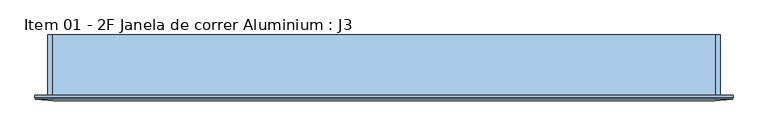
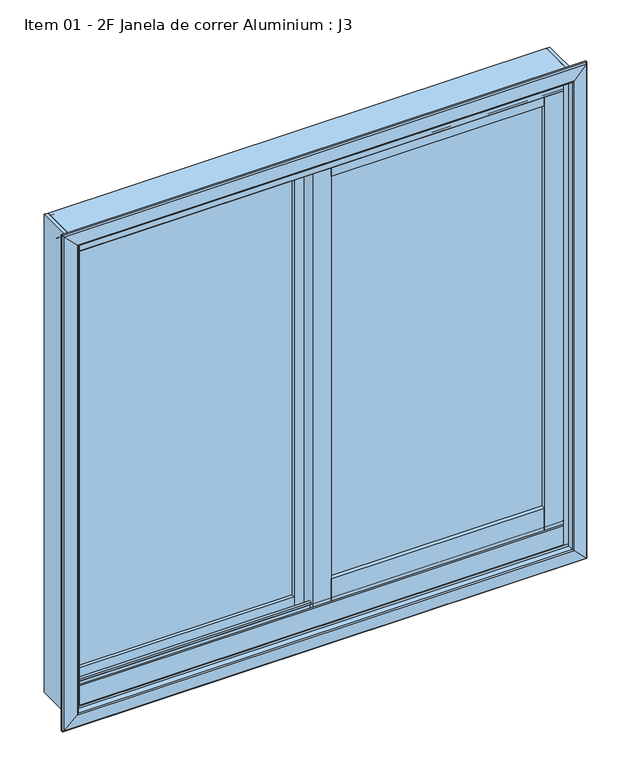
"""IFC4 building model written with IfcOpenShell, lengths in millimetres: window geometry, Item 01 - 2F Janela de correr Aluminium : J3."""

from ifc_helpers import new_model, si_unit, frame, origin, place, context, project, spatial, polyline, circle_curve, ellipse_curve, outline, extrude, source, transform, mapped, element, save
from ifc_brep_helpers import plane_surface, cylinder_surface, revolved_surface, advanced_brep


def item_01_2f_janela_de_correr_aluminium_j3_e0c3c169(model_context):
    return source(origin(), model_context, "Body", "SolidModel", [
        extrude(outline(polyline([(-27.3998339, -10.3), (-27.3998339, -14.3), (-454.750983, -14.3), (-454.750983, -10.3), (-27.3998339, -10.3)])), frame((0.0, 0.0, 857.0), z_axis=(0.0, 0.0, 1.0), x_axis=(1.0, 0.0, 0.0)), (0.0, 0.0, 1.0), 880.5),
        extrude(outline(polyline([(27.2998339, -45.9), (27.2998339, -41.9), (448.868646, -41.9), (448.868646, -45.9), (27.2998339, -45.9)])), frame((0.0, 0.0, 895.5), z_axis=(0.0, 0.0, 1.0), x_axis=(1.0, 0.0, 0.0)), (0.0, 0.0, 1.0), 842.0),
        extrude(outline(polyline([(448.868646, -33.9), (448.868646, -53.9), (27.2998339, -53.9), (27.2998339, -33.9), (448.868646, -33.9)])), frame((0.0, 0.0, 847.9996573), z_axis=(0.0, 0.0, 1.0), x_axis=(1.0, 0.0, 0.0)), (0.0, 0.0, 1.0), 47.5003427),
        extrude(outline(polyline([(448.868646, -33.9), (448.868646, -53.9), (27.2998339, -53.9), (27.2998339, -33.9), (448.868646, -33.9)])), frame((0.0, 0.0, 1737.4996573), z_axis=(0.0, 0.0, 1.0), x_axis=(1.0, 0.0, 0.0)), (0.0, 0.0, 1.0), 34.5),
        extrude(outline(polyline([(-27.3998339, -2.3), (-27.3998339, -22.3), (-454.750983, -22.3), (-454.750983, -2.3), (-27.3998339, -2.3)])), frame((0.0, 0.0, 821.0), z_axis=(0.0, 0.0, 1.0), x_axis=(1.0, 0.0, 0.0)), (0.0, 0.0, 1.0), 36.0),
        extrude(outline(polyline([(-27.3998339, -2.3), (-27.3998339, -22.3), (-454.750983, -22.3), (-454.750983, -2.3), (-27.3998339, -2.3)])), frame((0.0, 0.0, 1737.5), z_axis=(0.0, 0.0, 1.0), x_axis=(1.0, 0.0, 0.0)), (0.0, 0.0, 1.0), 34.5),
        extrude(outline(polyline([(-454.750983, -22.3), (-493.0, -22.3), (-493.0, -2.3), (-454.750983, -2.3), (-454.750983, -22.3)])), frame((0.0, 0.0, 821.0), z_axis=(0.0, 0.0, 1.0), x_axis=(1.0, 0.0, 0.0)), (0.0, 0.0, 1.0), 951.0),
        extrude(outline(polyline([(-27.3998339, -22.3), (-27.3998339, -2.3), (7.6001661, -2.3), (7.6001661, -33.9), (27.2998339, -33.9), (27.2998339, -53.9), (-7.6001661, -53.9), (-7.6001661, -22.3), (-27.3998339, -22.3)])), frame((0.0, 0.0, 821.0), z_axis=(0.0, 0.0, 1.0), x_axis=(1.0, 0.0, 0.0)), (0.0, 0.0, 1.0), 951.0),
        extrude(outline(polyline([(493.0, -53.9), (448.868646, -53.9), (448.868646, -33.9), (493.0, -33.9), (493.0, -53.9)])), frame((0.0, 0.0, 821.0), z_axis=(0.0, 0.0, 1.0), x_axis=(1.0, 0.0, 0.0)), (0.0, 0.0, 1.0), 951.0),
        advanced_brep(
        [(-492.5998339, 8.5620965, 810.2470077), (-492.5998339, 8.5620965, 801.4000436), (-492.5998339, 13.600001, 801.4000436), (-492.5998339, 13.600001, 807.4000364), (-492.5998339, 14.9999993, 807.4000364), (-492.5998339, 15.0, 800.0), (-492.5998339, -75.0, 800.0), (-492.5998339, -75.0, 807.4000364), (-492.5998339, -73.6000017, 807.4000364), (-492.5998339, -73.6000017, 801.3999983), (-492.5998339, -68.6000077, 801.3999983), (-492.5998339, -68.6000077, 815.5000406), (-492.5998339, -66.9001002, 815.5000406), (-492.5998339, -66.9002002, 855.4959852), (-492.5998339, -63.9002108, 855.4999745), (-492.5998339, -63.9002039, 852.9999952), (-492.5998339, -65.5001025, 852.0762974), (-492.5998339, -65.4999102, 840.5017467), (-492.5998339, -64.5522917, 839.4937615), (-492.5998339, -42.5000392, 838.337999), (-492.5998339, -42.5000392, 852.496362), (-492.5998339, -44.7000484, 852.496362), (-492.5998339, -44.7000484, 848.6999865), (-492.5998339, -46.1007067, 848.6999865), (-492.5998339, -46.1007067, 852.4947997), (-492.5998339, -41.099933, 852.4947997), (-492.5998339, -41.099933, 838.2646991), (-492.5998339, -39.464205, 838.1789418), (-492.5998339, -35.731283, 834.861102), (-492.5998339, -32.3590937, 815.7367048), (-492.5998339, -29.9346709, 813.5917613), (-492.5998339, -14.4999651, 812.7828298), (-492.5998339, -14.4999651, 825.4891381), (-492.5998339, -9.4999947, 825.4999956), (-492.5998339, -9.4999711, 821.7000191), (-492.5998339, -10.8999694, 821.7000191), (-492.5998339, -10.8999694, 825.4963945), (-492.5998339, -13.0999825, 825.4963945), (-492.5998339, -13.0999825, 812.7095299), (-492.5998339, 7.2297593, 811.6448774), (492.5998339, 8.5620965, 810.2470077), (492.5998339, 8.5620965, 801.4000436), (492.5998339, 13.600001, 801.4000436), (492.5998339, 13.600001, 807.4000364), (492.5998339, 14.9999993, 807.4000364), (492.5998339, 15.0, 800.0), (492.5998339, -75.0, 800.0), (492.5998339, -75.0, 807.4000364), (492.5998339, -73.6000017, 807.4000364), (492.5998339, -73.6000017, 801.3999983), (492.5998339, -68.6000077, 801.3999983), (492.5998339, -68.6000077, 815.5000406), (492.5998339, -66.9001002, 815.5000406), (492.5998339, -66.9002002, 855.4959852), (492.5998339, -63.9002108, 855.4999745), (492.5998339, -63.9002039, 852.9999952), (492.5998339, -65.5001025, 852.0762974), (492.5998339, -65.4999102, 840.5017467), (492.5998339, -64.5522917, 839.4937615), (492.5998339, -42.5000392, 838.337999), (492.5998339, -42.5000392, 852.496362), (492.5998339, -44.7000484, 852.496362), (492.5998339, -44.7000484, 848.6999865), (492.5998339, -46.1007067, 848.6999865), (492.5998339, -46.1007067, 852.4947997), (492.5998339, -41.099933, 852.4947997), (492.5998339, -41.099933, 838.2646991), (492.5998339, -39.464205, 838.1789418), (492.5998339, -35.731283, 834.861102), (492.5998339, -32.3590937, 815.7367048), (492.5998339, -29.9346709, 813.5917613), (492.5998339, -14.4999651, 812.7828298), (492.5998339, -14.4999651, 825.4891381), (492.5998339, -9.4999947, 825.4999956), (492.5998339, -9.4999711, 821.7000191), (492.5998339, -10.8999694, 821.7000191), (492.5998339, -10.8999694, 825.4963945), (492.5998339, -13.0999825, 825.4963945), (492.5998339, -13.0999825, 812.7095299), (492.5998339, 7.2297593, 811.6448774)],
        [
            (0, 1),
            (1, 2),
            (2, 3),
            (3, 4),
            (4, 5),
            (5, 6),
            (6, 7),
            (7, 8),
            (8, 9),
            (9, 10),
            (10, 11),
            (11, 12),
            (12, 13),
            (13, 14, circle_curve(frame((-492.5998339, -65.4002082, 855.4999743), z_axis=(-1.0, 0.0, 0.0), x_axis=(0.0, 0.0, 1.0)), 1.4999974)),
            (14, 15),
            (15, 16),
            (16, 17),
            (17, 18, circle_curve(frame((-492.5998339, -64.4999552, 840.4923898), z_axis=(1.0, 0.0, 0.0), x_axis=(0.0, 0.0, 1.0)), 0.9999988)),
            (18, 19),
            (19, 20),
            (20, 21, circle_curve(frame((-492.5998339, -43.6000438, 852.496362), z_axis=(1.0, 0.0, 0.0), x_axis=(0.0, 0.0, 1.0)), 1.1000046)),
            (21, 22),
            (22, 23, circle_curve(frame((-492.5998339, -45.4003775, 848.6999865), z_axis=(-1.0, 0.0, 0.0), x_axis=(0.0, 0.0, 1.0)), 0.7003292)),
            (23, 24),
            (24, 25, circle_curve(frame((-492.5998339, -43.6003199, 852.4947997), z_axis=(-1.0, 0.0, 0.0), x_axis=(0.0, 0.0, 1.0)), 2.5003869)),
            (25, 26),
            (26, 27),
            (27, 28, circle_curve(frame((-492.5998339, -39.6736275, 834.1844326), z_axis=(-1.0, 0.0, 0.0), x_axis=(0.0, 0.0, 1.0)), 3.9999952)),
            (28, 29),
            (29, 30, circle_curve(frame((-492.5998339, -29.7985976, 816.188195), z_axis=(1.0, 0.0, 0.0), x_axis=(0.0, 0.0, 1.0)), 2.5999969)),
            (30, 31),
            (31, 32),
            (32, 33, circle_curve(frame((-492.5998339, -11.9999917, 825.4999955), z_axis=(-1.0, 0.0, 0.0), x_axis=(0.0, 0.0, 1.0)), 2.499997)),
            (33, 34),
            (34, 35, circle_curve(frame((-492.5998339, -10.1999703, 821.7000191), z_axis=(-1.0, 0.0, 0.0), x_axis=(0.0, 0.0, 1.0)), 0.6999992)),
            (35, 36),
            (36, 37, circle_curve(frame((-492.5998339, -11.9999759, 825.4963945), z_axis=(1.0, 0.0, 0.0), x_axis=(0.0, 0.0, 1.0)), 1.1000065)),
            (37, 38),
            (38, 39),
            (39, 0, circle_curve(frame((-492.5998339, 7.1626152, 810.2470077), z_axis=(-1.0, 0.0, 0.0), x_axis=(0.0, 0.0, 1.0)), 1.3994814)),
            (0, 40),
            (40, 41),
            (41, 1),
            (41, 42),
            (42, 2),
            (42, 43),
            (43, 3),
            (43, 44),
            (44, 4),
            (44, 45),
            (45, 5),
            (45, 46),
            (46, 6),
            (46, 47),
            (47, 7),
            (47, 48),
            (48, 8),
            (48, 49),
            (49, 9),
            (49, 50),
            (50, 10),
            (50, 51),
            (51, 11),
            (51, 52),
            (52, 12),
            (52, 53),
            (53, 13),
            (53, 54, circle_curve(frame((492.5998339, -65.4002082, 855.4999743), z_axis=(-1.0, 0.0, 0.0), x_axis=(0.0, 0.0, 1.0)), 1.4999974)),
            (54, 14),
            (54, 55),
            (55, 15),
            (55, 56),
            (56, 16),
            (56, 57),
            (57, 17),
            (57, 58, circle_curve(frame((492.5998339, -64.4999552, 840.4923898), z_axis=(1.0, 0.0, 0.0), x_axis=(0.0, 0.0, 1.0)), 0.9999988)),
            (58, 18),
            (58, 59),
            (59, 19),
            (59, 60),
            (60, 20),
            (60, 61, circle_curve(frame((492.5998339, -43.6000438, 852.496362), z_axis=(1.0, 0.0, 0.0), x_axis=(0.0, 0.0, 1.0)), 1.1000046)),
            (61, 21),
            (61, 62),
            (62, 22),
            (62, 63, circle_curve(frame((492.5998339, -45.4003775, 848.6999865), z_axis=(-1.0, 0.0, 0.0), x_axis=(0.0, 0.0, 1.0)), 0.7003292)),
            (63, 23),
            (63, 64),
            (64, 24),
            (64, 65, circle_curve(frame((492.5998339, -43.6003199, 852.4947997), z_axis=(-1.0, 0.0, 0.0), x_axis=(0.0, 0.0, 1.0)), 2.5003869)),
            (65, 25),
            (65, 66),
            (66, 26),
            (66, 67),
            (67, 27),
            (67, 68, circle_curve(frame((492.5998339, -39.6736275, 834.1844326), z_axis=(-1.0, 0.0, 0.0), x_axis=(0.0, 0.0, 1.0)), 3.9999952)),
            (68, 28),
            (68, 69),
            (69, 29),
            (69, 70, circle_curve(frame((492.5998339, -29.7985976, 816.188195), z_axis=(1.0, 0.0, 0.0), x_axis=(0.0, 0.0, 1.0)), 2.5999969)),
            (70, 30),
            (70, 71),
            (71, 31),
            (71, 72),
            (72, 32),
            (72, 73, circle_curve(frame((492.5998339, -11.9999917, 825.4999955), z_axis=(-1.0, 0.0, 0.0), x_axis=(0.0, 0.0, 1.0)), 2.499997)),
            (73, 33),
            (73, 74),
            (74, 34),
            (74, 75, circle_curve(frame((492.5998339, -10.1999703, 821.7000191), z_axis=(-1.0, 0.0, 0.0), x_axis=(0.0, 0.0, 1.0)), 0.6999992)),
            (75, 35),
            (75, 76),
            (76, 36),
            (76, 77, circle_curve(frame((492.5998339, -11.9999759, 825.4963945), z_axis=(1.0, 0.0, 0.0), x_axis=(0.0, 0.0, 1.0)), 1.1000065)),
            (77, 37),
            (77, 78),
            (78, 38),
            (78, 79),
            (79, 39),
            (79, 40, circle_curve(frame((492.5998339, 7.1626152, 810.2470077), z_axis=(-1.0, 0.0, 0.0), x_axis=(0.0, 0.0, 1.0)), 1.3994814)),
        ],
        [
            plane_surface(frame((-492.5998339, -75.0, 1800.0), z_axis=(-1.0, 0.0, 0.0), x_axis=(0.0, -1.0, 0.0))),
            plane_surface(frame((-492.5998339, 8.5620965, 810.2470077), z_axis=(0.0, 1.0, 0.0), x_axis=(1.0, 0.0, 0.0))),
            plane_surface(frame((-492.5998339, 8.5620965, 801.4000436), z_axis=(0.0, 0.0, 1.0), x_axis=(1.0, 0.0, 0.0))),
            plane_surface(frame((-492.5998339, 13.600001, 801.4000436), z_axis=(0.0, -1.0, 0.0), x_axis=(1.0, 0.0, 0.0))),
            plane_surface(frame((-492.5998339, 13.600001, 807.4000364), z_axis=(0.0, 0.0, 1.0), x_axis=(1.0, 0.0, 0.0))),
            plane_surface(frame((-492.5998339, 14.9999993, 807.4000364), z_axis=(0.0, 0.999999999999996, 9.01305508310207e-08), x_axis=(1.0, 0.0, 0.0))),
            plane_surface(frame((-492.5998339, 15.0, 800.0), z_axis=(0.0, 0.0, -1.0), x_axis=(1.0, 0.0, 0.0))),
            plane_surface(frame((-492.5998339, -75.0, 800.0), z_axis=(0.0, -1.0, 0.0), x_axis=(1.0, 0.0, 0.0))),
            plane_surface(frame((-492.5998339, -75.0, 807.4000364), z_axis=(0.0, 0.0, 1.0), x_axis=(1.0, 0.0, 0.0))),
            plane_surface(frame((-492.5998339, -73.6000017, 807.4000364), z_axis=(0.0, 1.0, 0.0), x_axis=(1.0, 0.0, 0.0))),
            plane_surface(frame((-492.5998339, -73.6000017, 801.3999983), z_axis=(0.0, 0.0, 1.0), x_axis=(1.0, 0.0, 0.0))),
            plane_surface(frame((-492.5998339, -68.6000077, 801.3999983), z_axis=(0.0, -1.0, 0.0), x_axis=(1.0, 0.0, 0.0))),
            plane_surface(frame((-492.5998339, -68.6000077, 815.5000406), z_axis=(0.0, 0.0, 1.0), x_axis=(1.0, 0.0, 0.0))),
            plane_surface(frame((-492.5998339, -66.9001002, 815.5000406), z_axis=(0.0, -0.999999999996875, -2.50000000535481e-06), x_axis=(1.0, 0.0, 0.0))),
            cylinder_surface(frame((-492.5998339, -65.4002082, 855.4999743), z_axis=(-1.0, 0.0, 0.0), x_axis=(0.0, 0.0, 1.0)), 1.4999974),
            plane_surface(frame((-492.5998339, -63.9002039, 855.4999927), z_axis=(0.0, 1.0, 0.0), x_axis=(1.0, 0.0, 0.0))),
            plane_surface(frame((-492.5998339, -63.9002039, 852.9999952), z_axis=(0.0, 0.4999983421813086, -0.8660263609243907), x_axis=(1.0, 0.0, 0.0))),
            plane_surface(frame((-492.5998339, -65.5001025, 852.0762974), z_axis=(0.0, 0.9999999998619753, 1.6614737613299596e-05), x_axis=(1.0, 0.0, 0.0))),
            revolved_surface(polyline([(492.5998339, -64.4999552, 841.4923885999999), (-492.5998339, -64.4999552, 841.4923885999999)]), (-492.5998339, -64.4999552, 840.4923898), (1.0, 0.0, 0.0)),
            plane_surface(frame((-492.5998339, -64.5523119, 839.493712), z_axis=(0.0, 0.05233606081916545, 0.9986295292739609), x_axis=(1.0, 0.0, 0.0))),
            plane_surface(frame((-492.5998339, -42.5000392, 838.337999), z_axis=(0.0, -1.0, 0.0), x_axis=(1.0, 0.0, 0.0))),
            revolved_surface(polyline([(492.5998339, -43.6000438, 853.5963666), (-492.5998339, -43.6000438, 853.5963666)]), (-492.5998339, -43.6000438, 852.496362), (1.0, 0.0, 0.0)),
            plane_surface(frame((-492.5998339, -44.7000484, 852.496362), z_axis=(0.0, 1.0, 0.0), x_axis=(1.0, 0.0, 0.0))),
            cylinder_surface(frame((-492.5998339, -45.4003775, 848.6999865), z_axis=(-1.0, 0.0, 0.0), x_axis=(0.0, 0.0, 1.0)), 0.7003292),
            plane_surface(frame((-492.5998339, -46.1007067, 848.6999865), z_axis=(0.0, -1.0, 0.0), x_axis=(1.0, 0.0, 0.0))),
            cylinder_surface(frame((-492.5998339, -43.6003199, 852.4947997), z_axis=(-1.0, 0.0, 0.0), x_axis=(0.0, 0.0, 1.0)), 2.5003869),
            plane_surface(frame((-492.5998339, -41.099933, 852.4947997), z_axis=(0.0, 1.0, 0.0), x_axis=(1.0, 0.0, 0.0))),
            plane_surface(frame((-492.5998339, -41.099933, 838.2646991), z_axis=(0.0, 0.05235569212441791, 0.998628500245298), x_axis=(1.0, 0.0, 0.0))),
            cylinder_surface(frame((-492.5998339, -39.6736275, 834.1844326), z_axis=(-1.0, 0.0, 0.0), x_axis=(0.0, 0.0, 1.0)), 3.9999952),
            plane_surface(frame((-492.5998339, -35.731283, 834.861102), z_axis=(0.0, 0.9848073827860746, 0.17365027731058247), x_axis=(1.0, 0.0, 0.0))),
            revolved_surface(polyline([(492.5998339, -29.7985976, 818.7881918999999), (-492.5998339, -29.7985976, 818.7881918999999)]), (-492.5998339, -29.7985976, 816.188195), (1.0, 0.0, 0.0)),
            plane_surface(frame((-492.5998339, -29.9346464, 813.5917288), z_axis=(0.0, 0.052336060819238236, 0.9986295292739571), x_axis=(1.0, 0.0, 0.0))),
            plane_surface(frame((-492.5998339, -14.4999651, 812.7828298), z_axis=(0.0, -1.0, 0.0), x_axis=(1.0, 0.0, 0.0))),
            cylinder_surface(frame((-492.5998339, -11.9999917, 825.4999955), z_axis=(-1.0, 0.0, 0.0), x_axis=(0.0, 0.0, 1.0)), 2.499997),
            plane_surface(frame((-492.5998339, -9.4999711, 825.5000145), z_axis=(0.0, 1.0, 0.0), x_axis=(1.0, 0.0, 0.0))),
            cylinder_surface(frame((-492.5998339, -10.1999703, 821.7000191), z_axis=(-1.0, 0.0, 0.0), x_axis=(0.0, 0.0, 1.0)), 0.6999992),
            plane_surface(frame((-492.5998339, -10.8999694, 821.7000191), z_axis=(0.0, -1.0, 0.0), x_axis=(1.0, 0.0, 0.0))),
            revolved_surface(polyline([(492.5998339, -11.9999759, 826.5964009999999), (-492.5998339, -11.9999759, 826.5964009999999)]), (-492.5998339, -11.9999759, 825.4963945), (1.0, 0.0, 0.0)),
            plane_surface(frame((-492.5998339, -13.0999825, 825.4963945), z_axis=(0.0, 1.0, 0.0), x_axis=(1.0, 0.0, 0.0))),
            plane_surface(frame((-492.5998339, -13.0999825, 812.7095299), z_axis=(0.0, 0.052297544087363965, 0.9986315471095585), x_axis=(1.0, 0.0, 0.0))),
            cylinder_surface(frame((-492.5998339, 7.1626152, 810.2470077), z_axis=(-1.0, 0.0, 0.0), x_axis=(0.0, 0.0, 1.0)), 1.3994814),
            plane_surface(frame((492.5998339, -75.0, 1800.0), z_axis=(1.0, 0.0, 0.0), x_axis=(0.0, -1.0, 0.0))),
        ],
        [
            (0, [[1, 2, 3, 4, 5, 6, 7, 8, 9, 10, 11, 12, 13, 14, 15, 16, 17, 18, 19, 20, 21, 22, 23, 24, 25, 26, 27, 28, 29, 30, 31, 32, 33, 34, 35, 36, 37, 38, 39, 40]]),
            (1, [[-1, 41, 42, 43]]),
            (2, [[-2, -43, 44, 45]]),
            (3, [[-3, -45, 46, 47]]),
            (4, [[-4, -47, 48, 49]]),
            (5, [[-5, -49, 50, 51]]),
            (6, [[-6, -51, 52, 53]]),
            (7, [[-7, -53, 54, 55]]),
            (8, [[-8, -55, 56, 57]]),
            (9, [[-9, -57, 58, 59]]),
            (10, [[-10, -59, 60, 61]]),
            (11, [[-11, -61, 62, 63]]),
            (12, [[-12, -63, 64, 65]]),
            (13, [[-13, -65, 66, 67]]),
            (14, [[-14, -67, 68, 69]]),
            (15, [[-15, -69, 70, 71]]),
            (16, [[-16, -71, 72, 73]]),
            (17, [[-17, -73, 74, 75]]),
            (18, [[-18, -75, 76, 77]]),
            (19, [[-19, -77, 78, 79]]),
            (20, [[-20, -79, 80, 81]]),
            (21, [[-21, -81, 82, 83]]),
            (22, [[-22, -83, 84, 85]]),
            (23, [[-23, -85, 86, 87]]),
            (24, [[-24, -87, 88, 89]]),
            (25, [[-25, -89, 90, 91]]),
            (26, [[-26, -91, 92, 93]]),
            (27, [[-27, -93, 94, 95]]),
            (28, [[-28, -95, 96, 97]]),
            (29, [[-29, -97, 98, 99]]),
            (30, [[-30, -99, 100, 101]]),
            (31, [[-31, -101, 102, 103]]),
            (32, [[-32, -103, 104, 105]]),
            (33, [[-33, -105, 106, 107]]),
            (34, [[-34, -107, 108, 109]]),
            (35, [[-35, -109, 110, 111]]),
            (36, [[-36, -111, 112, 113]]),
            (37, [[-37, -113, 114, 115]]),
            (38, [[-38, -115, 116, 117]]),
            (39, [[-39, -117, 118, 119]]),
            (40, [[-40, -119, 120, -41]]),
            (41, [[-120, -118, -116, -114, -112, -110, -108, -106, -104, -102, -100, -98, -96, -94, -92, -90, -88, -86, -84, -82, -80, -78, -76, -74, -72, -70, -68, -66, -64, -62, -60, -58, -56, -54, -52, -50, -48, -46, -44, -42]]),
        ],
    ),
        advanced_brep(
        [(-492.5998339, -66.8990741, 1765.5), (-492.5998339, -66.8990741, 1784.5), (-492.5998339, -68.5994745, 1784.5), (-492.5998339, -68.5994745, 1798.6), (-492.5998339, -73.5994745, 1798.6), (-492.5998339, -73.5994745, 1792.6), (-492.5998339, -74.9994395, 1792.6), (-492.5998339, -74.9994395, 1800.0), (-492.5998339, 15.0005605, 1800.0), (-492.5998339, 15.0005605, 1792.6), (-492.5998339, 13.6005455, 1792.6), (-492.5998339, 13.6005455, 1798.6), (-492.5998339, 8.6005455, 1798.6), (-492.5998339, 8.6005455, 1784.5), (-492.5998339, 6.9005605, 1784.5), (-492.5998339, 6.9005605, 1761.0), (-492.5998339, 5.5005605, 1760.0834849), (-492.5998339, 5.5005605, 1784.5), (-492.5998339, -13.0994395, 1784.5), (-492.5998339, -13.0994395, 1766.4999475), (-492.5998339, -10.8994395, 1766.4999475), (-492.5998339, -10.8994395, 1770.298754), (-492.5998339, -9.4986209, 1770.298754), (-492.5998339, -9.4986209, 1766.4999475), (-492.5998339, -14.5002581, 1766.4999475), (-492.5998339, -14.5002581, 1784.5), (-492.5998339, -41.0986209, 1784.5), (-492.5998339, -41.0986209, 1766.499981), (-492.5998339, -46.1002581, 1766.499981), (-492.5998339, -46.1002581, 1770.2997289), (-492.5998339, -44.6994395, 1770.2997289), (-492.5998339, -44.6994395, 1766.499981), (-492.5998339, -42.4994395, 1766.499981), (-492.5998339, -42.4994395, 1784.5), (-492.5998339, -65.4994049, 1784.5), (-492.5998339, -65.4994049, 1768.9237013), (-492.5998339, -63.8998049, 1768.0002013), (-492.5998339, -63.8998049, 1765.5), (492.5998339, -66.8990741, 1765.5), (492.5998339, -63.8998049, 1765.5), (492.5998339, -63.8998049, 1768.0002013), (492.5998339, -65.4994049, 1768.9237013), (492.5998339, -65.4994049, 1784.5), (492.5998339, -42.4994395, 1784.5), (492.5998339, -42.4994395, 1766.499981), (492.5998339, -44.6994395, 1766.499981), (492.5998339, -44.6994395, 1770.2997289), (492.5998339, -46.1002581, 1770.2997289), (492.5998339, -46.1002581, 1766.499981), (492.5998339, -41.0986209, 1766.499981), (492.5998339, -41.0986209, 1784.5), (492.5998339, -14.5002581, 1784.5), (492.5998339, -14.5002581, 1766.4999475), (492.5998339, -9.4986209, 1766.4999475), (492.5998339, -9.4986209, 1770.298754), (492.5998339, -10.8994395, 1770.298754), (492.5998339, -10.8994395, 1766.4999475), (492.5998339, -13.0994395, 1766.4999475), (492.5998339, -13.0994395, 1784.5), (492.5998339, 5.5005605, 1784.5), (492.5998339, 5.5005605, 1760.0834849), (492.5998339, 6.9005605, 1761.0), (492.5998339, 6.9005605, 1784.5), (492.5998339, 8.6005455, 1784.5), (492.5998339, 8.6005455, 1798.6), (492.5998339, 13.6005455, 1798.6), (492.5998339, 13.6005455, 1792.6), (492.5998339, 15.0005605, 1792.6), (492.5998339, 15.0005605, 1800.0), (492.5998339, -74.9994395, 1800.0), (492.5998339, -74.9994395, 1792.6), (492.5998339, -73.5994745, 1792.6), (492.5998339, -73.5994745, 1798.6), (492.5998339, -68.5994745, 1798.6), (492.5998339, -68.5994745, 1784.5), (492.5998339, -66.8990741, 1784.5)],
        [
            (0, 1),
            (1, 2),
            (2, 3),
            (3, 4),
            (4, 5),
            (5, 6),
            (6, 7),
            (7, 8),
            (8, 9),
            (9, 10),
            (10, 11),
            (11, 12),
            (12, 13),
            (13, 14),
            (14, 15),
            (15, 16, circle_curve(frame((-492.5998339, 5.9005605, 1761.0), z_axis=(-1.0, 0.0, 0.0), x_axis=(0.0, 0.0, 1.0)), 1.0)),
            (16, 17),
            (17, 18),
            (18, 19),
            (19, 20, circle_curve(frame((-492.5998339, -11.9994395, 1766.4999475), z_axis=(1.0, 0.0, 0.0), x_axis=(0.0, 0.0, 1.0)), 1.1)),
            (20, 21),
            (21, 22, circle_curve(frame((-492.5998339, -10.1990302, 1770.298754), z_axis=(-1.0, 0.0, 0.0), x_axis=(0.0, 0.0, 1.0)), 0.7004093)),
            (22, 23),
            (23, 24, circle_curve(frame((-492.5998339, -11.9994395, 1766.4999475), z_axis=(-1.0, 0.0, 0.0), x_axis=(0.0, 0.0, 1.0)), 2.5008186)),
            (24, 25),
            (25, 26),
            (26, 27),
            (27, 28, circle_curve(frame((-492.5998339, -43.5994395, 1766.499981), z_axis=(-1.0, 0.0, 0.0), x_axis=(0.0, 0.0, 1.0)), 2.5008186)),
            (28, 29),
            (29, 30, circle_curve(frame((-492.5998339, -45.3998488, 1770.2997289), z_axis=(-1.0, 0.0, 0.0), x_axis=(0.0, 0.0, 1.0)), 0.7004093)),
            (30, 31),
            (31, 32, circle_curve(frame((-492.5998339, -43.5994395, 1766.499981), z_axis=(1.0, 0.0, 0.0), x_axis=(0.0, 0.0, 1.0)), 1.1)),
            (32, 33),
            (33, 34),
            (34, 35),
            (35, 36),
            (36, 37),
            (37, 0, circle_curve(frame((-492.5998339, -65.3994395, 1765.5), z_axis=(-1.0, 0.0, 0.0), x_axis=(0.0, 0.0, 1.0)), 1.4996346)),
            (38, 39, circle_curve(frame((492.5998339, -65.3994395, 1765.5), z_axis=(1.0, 0.0, 0.0), x_axis=(0.0, 0.0, 1.0)), 1.4996346)),
            (39, 40),
            (40, 41),
            (41, 42),
            (42, 43),
            (43, 44),
            (44, 45, circle_curve(frame((492.5998339, -43.5994395, 1766.499981), z_axis=(-1.0, 0.0, 0.0), x_axis=(0.0, 0.0, 1.0)), 1.1)),
            (45, 46),
            (46, 47, circle_curve(frame((492.5998339, -45.3998488, 1770.2997289), z_axis=(1.0, 0.0, 0.0), x_axis=(0.0, 0.0, 1.0)), 0.7004093)),
            (47, 48),
            (48, 49, circle_curve(frame((492.5998339, -43.5994395, 1766.499981), z_axis=(1.0, 0.0, 0.0), x_axis=(0.0, 0.0, 1.0)), 2.5008186)),
            (49, 50),
            (50, 51),
            (51, 52),
            (52, 53, circle_curve(frame((492.5998339, -11.9994395, 1766.4999475), z_axis=(1.0, 0.0, 0.0), x_axis=(0.0, 0.0, 1.0)), 2.5008186)),
            (53, 54),
            (54, 55, circle_curve(frame((492.5998339, -10.1990302, 1770.298754), z_axis=(1.0, 0.0, 0.0), x_axis=(0.0, 0.0, 1.0)), 0.7004093)),
            (55, 56),
            (56, 57, circle_curve(frame((492.5998339, -11.9994395, 1766.4999475), z_axis=(-1.0, 0.0, 0.0), x_axis=(0.0, 0.0, 1.0)), 1.1)),
            (57, 58),
            (58, 59),
            (59, 60),
            (60, 61, circle_curve(frame((492.5998339, 5.9005605, 1761.0), z_axis=(1.0, 0.0, 0.0), x_axis=(0.0, 0.0, 1.0)), 1.0)),
            (61, 62),
            (62, 63),
            (63, 64),
            (64, 65),
            (65, 66),
            (66, 67),
            (67, 68),
            (68, 69),
            (69, 70),
            (70, 71),
            (71, 72),
            (72, 73),
            (73, 74),
            (74, 75),
            (75, 38),
            (0, 38),
            (75, 1),
            (74, 2),
            (73, 3),
            (72, 4),
            (71, 5),
            (70, 6),
            (69, 7),
            (68, 8),
            (67, 9),
            (66, 10),
            (65, 11),
            (64, 12),
            (63, 13),
            (62, 14),
            (61, 15),
            (60, 16),
            (59, 17),
            (58, 18),
            (57, 19),
            (56, 20),
            (55, 21),
            (54, 22),
            (53, 23),
            (52, 24),
            (51, 25),
            (50, 26),
            (49, 27),
            (48, 28),
            (47, 29),
            (46, 30),
            (45, 31),
            (44, 32),
            (43, 33),
            (42, 34),
            (41, 35),
            (40, 36),
            (39, 37),
        ],
        [
            plane_surface(frame((-492.5998339, -75.0, 1800.0), z_axis=(-1.0, 0.0, 0.0), x_axis=(0.0, -1.0, 0.0))),
            plane_surface(frame((492.5998339, -75.0, 1800.0), z_axis=(1.0, 0.0, 0.0), x_axis=(0.0, -1.0, 0.0))),
            plane_surface(frame((-492.5998339, -66.8990741, 1765.5), z_axis=(0.0, -1.0, 0.0), x_axis=(1.0, 0.0, 0.0))),
            plane_surface(frame((-492.5998339, -66.8990741, 1784.5), z_axis=(0.0, 0.0, -1.0), x_axis=(1.0, 0.0, 0.0))),
            plane_surface(frame((-492.5998339, -68.5994745, 1784.5), z_axis=(0.0, -1.0, 0.0), x_axis=(1.0, 0.0, 0.0))),
            plane_surface(frame((-492.5998339, -68.5994745, 1798.6), z_axis=(0.0, 0.0, -1.0), x_axis=(1.0, 0.0, 0.0))),
            plane_surface(frame((-492.5998339, -73.5994745, 1798.6), z_axis=(0.0, 1.0, 0.0), x_axis=(1.0, 0.0, 0.0))),
            plane_surface(frame((-492.5998339, -73.5994745, 1792.6), z_axis=(0.0, 0.0, -1.0), x_axis=(1.0, 0.0, 0.0))),
            plane_surface(frame((-492.5998339, -74.9994395, 1792.6), z_axis=(0.0, -1.0, 0.0), x_axis=(1.0, 0.0, 0.0))),
            plane_surface(frame((-492.5998339, -74.9994395, 1800.0), z_axis=(0.0, 0.0, 1.0), x_axis=(1.0, 0.0, 0.0))),
            plane_surface(frame((-492.5998339, 15.0005605, 1800.0), z_axis=(0.0, 1.0, 0.0), x_axis=(1.0, 0.0, 0.0))),
            plane_surface(frame((-492.5998339, 15.0005605, 1792.6), z_axis=(0.0, 0.0, -1.0), x_axis=(1.0, 0.0, 0.0))),
            plane_surface(frame((-492.5998339, 13.6005455, 1792.6), z_axis=(0.0, -1.0, 0.0), x_axis=(1.0, 0.0, 0.0))),
            plane_surface(frame((-492.5998339, 13.6005455, 1798.6), z_axis=(0.0, 0.0, -1.0), x_axis=(1.0, 0.0, 0.0))),
            plane_surface(frame((-492.5998339, 8.6005455, 1798.6), z_axis=(0.0, 1.0, 0.0), x_axis=(1.0, 0.0, 0.0))),
            plane_surface(frame((-492.5998339, 8.6005455, 1784.5), z_axis=(0.0, 0.0, -1.0), x_axis=(1.0, 0.0, 0.0))),
            plane_surface(frame((-492.5998339, 6.9005605, 1784.5), z_axis=(0.0, 1.0, 0.0), x_axis=(1.0, 0.0, 0.0))),
            cylinder_surface(frame((-492.5998339, 5.9005605, 1761.0), z_axis=(-1.0, 0.0, 0.0), x_axis=(0.0, 0.0, 1.0)), 1.0),
            plane_surface(frame((-492.5998339, 5.5005605, 1760.0834849), z_axis=(0.0, -1.0, 0.0), x_axis=(1.0, 0.0, 0.0))),
            plane_surface(frame((-492.5998339, 5.5005605, 1784.5), z_axis=(0.0, 0.0, -1.0), x_axis=(1.0, 0.0, 0.0))),
            plane_surface(frame((-492.5998339, -13.0994395, 1784.5), z_axis=(0.0, 1.0, 0.0), x_axis=(1.0, 0.0, 0.0))),
            revolved_surface(polyline([(492.5998339, -11.9994395, 1767.5999474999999), (-492.5998339, -11.9994395, 1767.5999474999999)]), (-492.5998339, -11.9994395, 1766.4999475), (1.0, 0.0, 0.0)),
            plane_surface(frame((-492.5998339, -10.8994395, 1766.4999475), z_axis=(0.0, -1.0, 0.0), x_axis=(1.0, 0.0, 0.0))),
            cylinder_surface(frame((-492.5998339, -10.1990302, 1770.298754), z_axis=(-1.0, 0.0, 0.0), x_axis=(0.0, 0.0, 1.0)), 0.7004093),
            plane_surface(frame((-492.5998339, -9.4986209, 1770.298754), z_axis=(0.0, 1.0, 0.0), x_axis=(1.0, 0.0, 0.0))),
            cylinder_surface(frame((-492.5998339, -11.9994395, 1766.4999475), z_axis=(-1.0, 0.0, 0.0), x_axis=(0.0, 0.0, 1.0)), 2.5008186),
            plane_surface(frame((-492.5998339, -14.5002581, 1766.4999475), z_axis=(0.0, -1.0, 0.0), x_axis=(1.0, 0.0, 0.0))),
            plane_surface(frame((-492.5998339, -14.5002581, 1784.5), z_axis=(0.0, 0.0, -1.0), x_axis=(1.0, 0.0, 0.0))),
            plane_surface(frame((-492.5998339, -41.0986209, 1784.5), z_axis=(0.0, 1.0, 0.0), x_axis=(1.0, 0.0, 0.0))),
            cylinder_surface(frame((-492.5998339, -43.5994395, 1766.499981), z_axis=(-1.0, 0.0, 0.0), x_axis=(0.0, 0.0, 1.0)), 2.5008186),
            plane_surface(frame((-492.5998339, -46.1002581, 1766.499981), z_axis=(0.0, -1.0, 0.0), x_axis=(1.0, 0.0, 0.0))),
            cylinder_surface(frame((-492.5998339, -45.3998488, 1770.2997289), z_axis=(-1.0, 0.0, 0.0), x_axis=(0.0, 0.0, 1.0)), 0.7004093),
            plane_surface(frame((-492.5998339, -44.6994395, 1770.2997289), z_axis=(0.0, 1.0, 0.0), x_axis=(1.0, 0.0, 0.0))),
            revolved_surface(polyline([(492.5998339, -43.5994395, 1767.5999809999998), (-492.5998339, -43.5994395, 1767.5999809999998)]), (-492.5998339, -43.5994395, 1766.499981), (1.0, 0.0, 0.0)),
            plane_surface(frame((-492.5998339, -42.4994395, 1766.499981), z_axis=(0.0, -1.0, 0.0), x_axis=(1.0, 0.0, 0.0))),
            plane_surface(frame((-492.5998339, -42.4994395, 1784.5), z_axis=(0.0, 0.0, -1.0), x_axis=(1.0, 0.0, 0.0))),
            plane_surface(frame((-492.5998339, -65.4994049, 1784.5), z_axis=(0.0, 1.0, 0.0), x_axis=(1.0, 0.0, 0.0))),
            plane_surface(frame((-492.5998339, -65.4994049, 1768.9237013), z_axis=(0.0, 0.49998802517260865, 0.8660323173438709), x_axis=(1.0, 0.0, 0.0))),
            plane_surface(frame((-492.5998339, -63.8998049, 1768.0002013), z_axis=(0.0, 1.0, 0.0), x_axis=(1.0, 0.0, 0.0))),
            cylinder_surface(frame((-492.5998339, -65.3994395, 1765.5), z_axis=(-1.0, 0.0, 0.0), x_axis=(0.0, 0.0, 1.0)), 1.4996346),
        ],
        [
            (0, [[1, 2, 3, 4, 5, 6, 7, 8, 9, 10, 11, 12, 13, 14, 15, 16, 17, 18, 19, 20, 21, 22, 23, 24, 25, 26, 27, 28, 29, 30, 31, 32, 33, 34, 35, 36, 37, 38]]),
            (1, [[39, 40, 41, 42, 43, 44, 45, 46, 47, 48, 49, 50, 51, 52, 53, 54, 55, 56, 57, 58, 59, 60, 61, 62, 63, 64, 65, 66, 67, 68, 69, 70, 71, 72, 73, 74, 75, 76]]),
            (2, [[-1, 77, -76, 78]]),
            (3, [[-2, -78, -75, 79]]),
            (4, [[-3, -79, -74, 80]]),
            (5, [[-4, -80, -73, 81]]),
            (6, [[-5, -81, -72, 82]]),
            (7, [[-6, -82, -71, 83]]),
            (8, [[-7, -83, -70, 84]]),
            (9, [[-8, -84, -69, 85]]),
            (10, [[-9, -85, -68, 86]]),
            (11, [[-10, -86, -67, 87]]),
            (12, [[-11, -87, -66, 88]]),
            (13, [[-12, -88, -65, 89]]),
            (14, [[-13, -89, -64, 90]]),
            (15, [[-14, -90, -63, 91]]),
            (16, [[-15, -91, -62, 92]]),
            (17, [[-16, -92, -61, 93]]),
            (18, [[-17, -93, -60, 94]]),
            (19, [[-18, -94, -59, 95]]),
            (20, [[-19, -95, -58, 96]]),
            (21, [[-20, -96, -57, 97]]),
            (22, [[-21, -97, -56, 98]]),
            (23, [[-22, -98, -55, 99]]),
            (24, [[-23, -99, -54, 100]]),
            (25, [[-24, -100, -53, 101]]),
            (26, [[-25, -101, -52, 102]]),
            (27, [[-26, -102, -51, 103]]),
            (28, [[-27, -103, -50, 104]]),
            (29, [[-28, -104, -49, 105]]),
            (30, [[-29, -105, -48, 106]]),
            (31, [[-30, -106, -47, 107]]),
            (32, [[-31, -107, -46, 108]]),
            (33, [[-32, -108, -45, 109]]),
            (34, [[-33, -109, -44, 110]]),
            (35, [[-34, -110, -43, 111]]),
            (36, [[-35, -111, -42, 112]]),
            (37, [[-36, -112, -41, 113]]),
            (38, [[-37, -113, -40, 114]]),
            (39, [[-38, -114, -39, -77]]),
        ],
    ),
        extrude(outline(polyline([(-500.0, -75.0), (-500.0, 15.0005605), (-492.5998339, 15.0005605), (-492.5998339, 8.6005605), (-479.5998339, 8.6005605), (-479.5998339, 7.2005603), (-492.5998339, 7.2005603), (-492.5998339, -67.1994395), (-479.5998339, -67.1994395), (-479.5998339, -68.5994395), (-492.5998339, -68.5994395), (-492.5998339, -75.0), (-500.0, -75.0)])), frame((0.0, 0.0, 800.0), z_axis=(0.0, 0.0, 1.0), x_axis=(1.0, 0.0, 0.0)), (0.0, 0.0, 1.0), 1000.0),
        extrude(outline(polyline([(500.0, -75.0), (492.5998339, -75.0), (492.5998339, -68.5994395), (479.5998339, -68.5994395), (479.5998339, -67.1994395), (492.5998339, -67.1994395), (492.5998339, 7.2005603), (479.5998339, 7.2005603), (479.5998339, 8.6005605), (492.5998339, 8.6005605), (492.5998339, 15.0005605), (500.0, 15.0005605), (500.0, -75.0)])), frame((0.0, 0.0, 800.0), z_axis=(0.0, 0.0, 1.0), x_axis=(1.0, 0.0, 0.0)), (0.0, 0.0, 1.0), 1000.0),
        advanced_brep(
        [(516.6179787, -80.8032791, 783.3820213), (491.6179953, -82.990685, 808.3820047), (-491.6179953, -82.990685, 808.3820047), (-516.6179787, -80.8032791, 783.3820213), (518.9000454, -78.301595, 781.0999546), (-518.9000454, -78.301595, 781.0999546), (518.9000454, -75.0, 781.0999546), (-518.9000454, -75.0, 781.0999546), (517.8000705, -78.312794, 782.1999295), (517.8000705, -75.0, 782.1999295), (-517.8000705, -75.0, 782.1999295), (-517.8000705, -78.312794, 782.1999295), (516.5220991, -79.7074657, 783.4779009), (-516.5220991, -79.7074657, 783.4779009), (491.5051608, -81.896355, 808.4948392), (-491.5051608, -81.896355, 808.4948392), (490.0000742, -80.5100572, 809.9999258), (-490.0000742, -80.5100572, 809.9999258), (490.0000742, -69.0002188, 809.9999258), (-490.0000742, -69.0002188, 809.9999258), (488.9000871, -80.5001999, 811.0999129), (488.9000871, -69.0002188, 811.0999129), (-488.9000871, -69.0002188, 811.0999129), (-488.9000871, -80.5001999, 811.0999129), (-491.6179953, -82.990685, 1791.6179953), (-516.6179787, -80.8032791, 1816.6179787), (-518.9000454, -78.301595, 1818.9000454), (-518.9000454, -75.0, 1818.9000454), (-517.8000705, -75.0, 1817.8000705), (-517.8000705, -78.312794, 1817.8000705), (-516.5220991, -79.7074657, 1816.5220991), (-491.5051608, -81.896355, 1791.5051608), (-490.0000742, -80.5100572, 1790.0000742), (-490.0000742, -69.0002188, 1790.0000742), (-488.9000871, -69.0002188, 1788.9000871), (-488.9000871, -80.5001999, 1788.9000871), (491.6179953, -82.990685, 1791.6179953), (516.6179787, -80.8032791, 1816.6179787), (518.9000454, -78.301595, 1818.9000454), (518.9000454, -75.0, 1818.9000454), (517.8000705, -75.0, 1817.8000705), (517.8000705, -78.312794, 1817.8000705), (516.5220991, -79.7074657, 1816.5220991), (491.5051608, -81.896355, 1791.5051608), (490.0000742, -80.5100572, 1790.0000742), (490.0000742, -69.0002188, 1790.0000742), (488.9000871, -69.0002188, 1788.9000871), (488.9000871, -80.5001999, 1788.9000871)],
        [
            (0, 1),
            (1, 2),
            (2, 3),
            (3, 0),
            (4, 0, ellipse_curve(frame((516.4000705, -78.312794, 783.5999295), z_axis=(-0.7071067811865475, 0.0, -0.7071067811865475), x_axis=(0.7071067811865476, 0.0, -0.7071067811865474)), 3.5355339, 2.5)),
            (3, 5, ellipse_curve(frame((-516.4000705, -78.312794, 783.5999295), z_axis=(0.7071067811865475, 0.0, -0.7071067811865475), x_axis=(0.7071067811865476, 0.0, 0.7071067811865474)), 3.5355339, 2.5)),
            (5, 4),
            (6, 4),
            (5, 7),
            (7, 6),
            (8, 9),
            (9, 10),
            (10, 11),
            (11, 8),
            (12, 8, ellipse_curve(frame((516.4000705, -78.312794, 783.5999295), z_axis=(0.7071067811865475, 0.0, 0.7071067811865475), x_axis=(-0.7071067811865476, 0.0, 0.7071067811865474)), 1.979899, 1.4)),
            (11, 13, ellipse_curve(frame((-516.4000705, -78.312794, 783.5999295), z_axis=(-0.7071067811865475, 0.0, 0.7071067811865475), x_axis=(-0.7071067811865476, 0.0, -0.7071067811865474)), 1.979899, 1.4)),
            (13, 12),
            (14, 12),
            (13, 15),
            (15, 14),
            (16, 14, ellipse_curve(frame((491.4000916, -80.5002514, 808.5999084), z_axis=(0.7071067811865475, 0.0, 0.7071067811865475), x_axis=(-0.7071067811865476, 0.0, 0.7071067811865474)), 1.9799721, 1.4000517)),
            (15, 17, ellipse_curve(frame((-491.4000916, -80.5002514, 808.5999084), z_axis=(-0.7071067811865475, 0.0, 0.7071067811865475), x_axis=(-0.7071067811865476, 0.0, -0.7071067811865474)), 1.9799721, 1.4000517)),
            (17, 16),
            (18, 16),
            (17, 19),
            (19, 18),
            (20, 21),
            (21, 22),
            (22, 23),
            (23, 20),
            (1, 20, ellipse_curve(frame((491.4000871, -80.5001999, 808.5999129), z_axis=(-0.7071067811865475, 0.0, -0.7071067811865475), x_axis=(0.7071067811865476, 0.0, -0.7071067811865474)), 3.5355339, 2.5)),
            (23, 2, ellipse_curve(frame((-491.4000871, -80.5001999, 808.5999129), z_axis=(0.7071067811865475, 0.0, -0.7071067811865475), x_axis=(0.7071067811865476, 0.0, 0.7071067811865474)), 3.5355339, 2.5)),
            (2, 24),
            (24, 25),
            (25, 3),
            (25, 26, ellipse_curve(frame((-516.4000705, -78.312794, 1816.4000705), z_axis=(-0.7071067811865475, 0.0, -0.7071067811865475), x_axis=(0.7071067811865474, 0.0, -0.7071067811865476)), 3.5355339, 2.5)),
            (26, 5),
            (26, 27),
            (27, 7),
            (10, 28),
            (28, 29),
            (29, 11),
            (29, 30, ellipse_curve(frame((-516.4000705, -78.312794, 1816.4000705), z_axis=(0.7071067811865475, 0.0, 0.7071067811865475), x_axis=(-0.7071067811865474, 0.0, 0.7071067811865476)), 1.979899, 1.4)),
            (30, 13),
            (30, 31),
            (31, 15),
            (31, 32, ellipse_curve(frame((-491.4000916, -80.5002514, 1791.4000916), z_axis=(0.7071067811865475, 0.0, 0.7071067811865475), x_axis=(-0.7071067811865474, 0.0, 0.7071067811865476)), 1.9799721, 1.4000517)),
            (32, 17),
            (32, 33),
            (33, 19),
            (22, 34),
            (34, 35),
            (35, 23),
            (35, 24, ellipse_curve(frame((-491.4000871, -80.5001999, 1791.4000871), z_axis=(-0.7071067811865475, 0.0, -0.7071067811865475), x_axis=(0.7071067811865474, 0.0, -0.7071067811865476)), 3.5355339, 2.5)),
            (24, 36),
            (36, 37),
            (37, 25),
            (37, 38, ellipse_curve(frame((516.4000705, -78.312794, 1816.4000705), z_axis=(-0.7071067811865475, 0.0, 0.7071067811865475), x_axis=(-0.7071067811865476, 0.0, -0.7071067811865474)), 3.5355339, 2.5)),
            (38, 26),
            (38, 39),
            (39, 27),
            (28, 40),
            (40, 41),
            (41, 29),
            (41, 42, ellipse_curve(frame((516.4000705, -78.312794, 1816.4000705), z_axis=(0.7071067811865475, 0.0, -0.7071067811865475), x_axis=(0.7071067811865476, 0.0, 0.7071067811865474)), 1.979899, 1.4)),
            (42, 30),
            (42, 43),
            (43, 31),
            (43, 44, ellipse_curve(frame((491.4000916, -80.5002514, 1791.4000916), z_axis=(0.7071067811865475, 0.0, -0.7071067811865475), x_axis=(0.7071067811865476, 0.0, 0.7071067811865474)), 1.9799721, 1.4000517)),
            (44, 32),
            (44, 45),
            (45, 33),
            (34, 46),
            (46, 47),
            (47, 35),
            (47, 36, ellipse_curve(frame((491.4000871, -80.5001999, 1791.4000871), z_axis=(-0.7071067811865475, 0.0, 0.7071067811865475), x_axis=(-0.7071067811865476, 0.0, -0.7071067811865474)), 3.5355339, 2.5)),
            (36, 1),
            (0, 37),
            (4, 38),
            (6, 39),
            (9, 40),
            (8, 41),
            (12, 42),
            (14, 43),
            (16, 44),
            (18, 45),
            (21, 46),
            (20, 47),
        ],
        [
            plane_surface(frame((491.6179953, -82.990685, 808.3820047), z_axis=(0.0, -0.9961940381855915, -0.08716328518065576), x_axis=(-1.0, 0.0, 0.0))),
            cylinder_surface(frame((500.0, -78.312794, 783.5999295), z_axis=(1.0, 0.0, 0.0), x_axis=(0.0, 0.0, 1.0)), 2.5),
            plane_surface(frame((518.9000454, -78.301595, 781.0999546), z_axis=(0.0, 0.0, -1.0), x_axis=(-1.0, 0.0, 0.0))),
            plane_surface(frame((517.8000705, -75.0, 782.1999295), z_axis=(0.0, 0.0, 1.0), x_axis=(-1.0, 0.0, 0.0))),
            revolved_surface(polyline([(-517.8000705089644, -78.312794, 784.9999295), (517.8000705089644, -78.312794, 784.9999295)]), (500.0, -78.312794, 783.5999295), (-1.0, 0.0, 0.0)),
            plane_surface(frame((516.5220991, -79.7074657, 783.4779009), z_axis=(0.0, 0.9961940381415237, 0.08716328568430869), x_axis=(-1.0, 0.0, 0.0))),
            revolved_surface(polyline([(-492.8001432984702, -80.5002514, 809.9999601), (492.8001432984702, -80.5002514, 809.9999601)]), (500.0, -80.5002514, 808.5999084), (-1.0, 0.0, 0.0)),
            plane_surface(frame((490.0000742, -80.5100572, 809.9999258), z_axis=(0.0, 0.0, -1.0), x_axis=(-1.0, 0.0, 0.0))),
            plane_surface(frame((488.9000871, -69.0002188, 811.0999129), z_axis=(0.0, 0.0, 1.0), x_axis=(-1.0, 0.0, 0.0))),
            cylinder_surface(frame((500.0, -80.5001999, 808.5999129), z_axis=(1.0, 0.0, 0.0), x_axis=(0.0, 0.0, 1.0)), 2.5),
            plane_surface(frame((-491.6179953, -82.990685, 808.3820047), z_axis=(-0.08716328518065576, -0.9961940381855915, 0.0), x_axis=(0.0, 0.0, 1.0))),
            cylinder_surface(frame((-516.4000705, -78.312794, 800.0), z_axis=(0.0, 0.0, -1.0), x_axis=(1.0, 0.0, 0.0)), 2.5),
            plane_surface(frame((-518.9000454, -78.301595, 781.0999546), z_axis=(-1.0, 0.0, 0.0), x_axis=(0.0, 0.0, 1.0))),
            plane_surface(frame((-517.8000705, -75.0, 782.1999295), z_axis=(1.0, 0.0, 0.0), x_axis=(0.0, 0.0, 1.0))),
            revolved_surface(polyline([(-515.0000705, -78.312794, 1817.8000705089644), (-515.0000705, -78.312794, 782.1999294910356)]), (-516.4000705, -78.312794, 800.0), (0.0, 0.0, 1.0)),
            plane_surface(frame((-516.5220991, -79.7074657, 783.4779009), z_axis=(0.08716328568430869, 0.9961940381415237, 0.0), x_axis=(0.0, 0.0, 1.0))),
            revolved_surface(polyline([(-490.0000399, -80.5002514, 1792.8001432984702), (-490.0000399, -80.5002514, 807.1998567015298)]), (-491.4000916, -80.5002514, 800.0), (0.0, 0.0, 1.0)),
            plane_surface(frame((-490.0000742, -80.5100572, 809.9999258), z_axis=(-1.0, 0.0, 0.0), x_axis=(0.0, 0.0, 1.0))),
            plane_surface(frame((-488.9000871, -69.0002188, 811.0999129), z_axis=(1.0, 0.0, 0.0), x_axis=(0.0, 0.0, 1.0))),
            cylinder_surface(frame((-491.4000871, -80.5001999, 800.0), z_axis=(0.0, 0.0, -1.0), x_axis=(1.0, 0.0, 0.0)), 2.5),
            plane_surface(frame((-491.6179953, -82.990685, 1791.6179953), z_axis=(0.0, -0.9961940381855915, 0.08716328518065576), x_axis=(1.0, 0.0, 0.0))),
            cylinder_surface(frame((-500.0, -78.312794, 1816.4000705), z_axis=(-1.0, 0.0, 0.0), x_axis=(0.0, 0.0, -1.0)), 2.5),
            plane_surface(frame((-518.9000454, -78.301595, 1818.9000454), z_axis=(0.0, 0.0, 1.0), x_axis=(1.0, 0.0, 0.0))),
            plane_surface(frame((-517.8000705, -75.0, 1817.8000705), z_axis=(0.0, 0.0, -1.0), x_axis=(1.0, 0.0, 0.0))),
            revolved_surface(polyline([(517.8000705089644, -78.312794, 1815.0000705), (-517.8000705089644, -78.312794, 1815.0000705)]), (-500.0, -78.312794, 1816.4000705), (1.0, 0.0, 0.0)),
            plane_surface(frame((-516.5220991, -79.7074657, 1816.5220991), z_axis=(0.0, 0.9961940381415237, -0.08716328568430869), x_axis=(1.0, 0.0, 0.0))),
            revolved_surface(polyline([(492.8001432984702, -80.5002514, 1790.0000399), (-492.8001432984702, -80.5002514, 1790.0000399)]), (-500.0, -80.5002514, 1791.4000916), (1.0, 0.0, 0.0)),
            plane_surface(frame((-490.0000742, -80.5100572, 1790.0000742), z_axis=(0.0, 0.0, 1.0), x_axis=(1.0, 0.0, 0.0))),
            plane_surface(frame((-488.9000871, -69.0002188, 1788.9000871), z_axis=(0.0, 0.0, -1.0), x_axis=(1.0, 0.0, 0.0))),
            cylinder_surface(frame((-500.0, -80.5001999, 1791.4000871), z_axis=(-1.0, 0.0, 0.0), x_axis=(0.0, 0.0, -1.0)), 2.5),
            plane_surface(frame((491.6179953, -82.990685, 1791.6179953), z_axis=(0.08716328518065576, -0.9961940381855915, 0.0), x_axis=(0.0, 0.0, -1.0))),
            cylinder_surface(frame((516.4000705, -78.312794, 1800.0), z_axis=(0.0, 0.0, 1.0), x_axis=(-1.0, 0.0, 0.0)), 2.5),
            plane_surface(frame((518.9000454, -78.301595, 1818.9000454), z_axis=(1.0, 0.0, 0.0), x_axis=(0.0, 0.0, -1.0))),
            plane_surface(frame((518.9000454, -75.0, 1818.9000454), z_axis=(0.0, 1.0, 0.0), x_axis=(0.0, 0.0, -1.0))),
            plane_surface(frame((517.8000705, -75.0, 1817.8000705), z_axis=(-1.0, 0.0, 0.0), x_axis=(0.0, 0.0, -1.0))),
            revolved_surface(polyline([(515.0000705, -78.312794, 782.1999294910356), (515.0000705, -78.312794, 1817.8000705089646)]), (516.4000705, -78.312794, 1800.0), (0.0, 0.0, -1.0)),
            plane_surface(frame((516.5220991, -79.7074657, 1816.5220991), z_axis=(-0.08716328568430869, 0.9961940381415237, 0.0), x_axis=(0.0, 0.0, -1.0))),
            revolved_surface(polyline([(490.0000399, -80.5002514, 807.1998567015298), (490.0000399, -80.5002514, 1792.8001432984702)]), (491.4000916, -80.5002514, 1800.0), (0.0, 0.0, -1.0)),
            plane_surface(frame((490.0000742, -80.5100572, 1790.0000742), z_axis=(1.0, 0.0, 0.0), x_axis=(0.0, 0.0, -1.0))),
            plane_surface(frame((490.0000742, -69.0002188, 1790.0000742), z_axis=(0.0, 1.0, 0.0), x_axis=(0.0, 0.0, -1.0))),
            plane_surface(frame((488.9000871, -69.0002188, 1788.9000871), z_axis=(-1.0, 0.0, 0.0), x_axis=(0.0, 0.0, -1.0))),
            cylinder_surface(frame((491.4000871, -80.5001999, 1800.0), z_axis=(0.0, 0.0, 1.0), x_axis=(-1.0, 0.0, 0.0)), 2.5),
        ],
        [
            (0, [[1, 2, 3, 4]]),
            (1, [[5, -4, 6, 7]]),
            (2, [[8, -7, 9, 10]]),
            (3, [[11, 12, 13, 14]]),
            (4, [[15, -14, 16, 17]]),
            (5, [[18, -17, 19, 20]]),
            (6, [[21, -20, 22, 23]]),
            (7, [[24, -23, 25, 26]]),
            (8, [[27, 28, 29, 30]]),
            (9, [[31, -30, 32, -2]]),
            (10, [[-3, 33, 34, 35]]),
            (11, [[-6, -35, 36, 37]]),
            (12, [[-9, -37, 38, 39]]),
            (13, [[-13, 40, 41, 42]]),
            (14, [[-16, -42, 43, 44]]),
            (15, [[-19, -44, 45, 46]]),
            (16, [[-22, -46, 47, 48]]),
            (17, [[-25, -48, 49, 50]]),
            (18, [[-29, 51, 52, 53]]),
            (19, [[-32, -53, 54, -33]]),
            (20, [[-34, 55, 56, 57]]),
            (21, [[-36, -57, 58, 59]]),
            (22, [[-38, -59, 60, 61]]),
            (23, [[-41, 62, 63, 64]]),
            (24, [[-43, -64, 65, 66]]),
            (25, [[-45, -66, 67, 68]]),
            (26, [[-47, -68, 69, 70]]),
            (27, [[-49, -70, 71, 72]]),
            (28, [[-52, 73, 74, 75]]),
            (29, [[-54, -75, 76, -55]]),
            (30, [[-56, 77, -1, 78]]),
            (31, [[-58, -78, -5, 79]]),
            (32, [[-60, -79, -8, 80]]),
            (33, [[-39, -61, -80, -10], [81, -62, -40, -12]]),
            (34, [[-63, -81, -11, 82]]),
            (35, [[-65, -82, -15, 83]]),
            (36, [[-67, -83, -18, 84]]),
            (37, [[-69, -84, -21, 85]]),
            (38, [[-71, -85, -24, 86]]),
            (39, [[-50, -72, -86, -26], [87, -73, -51, -28]]),
            (40, [[-74, -87, -27, 88]]),
            (41, [[-76, -88, -31, -77]]),
        ],
    ),
    ])


if __name__ == "__main__":
    model = new_model("IFC4")
    model_context = context("Model", 3, world=origin())
    ifc_project = project(units=[si_unit("LENGTHUNIT", "METRE", prefix="MILLI")], contexts=[model_context])
    site = spatial("IfcSite", under=ifc_project)
    building = spatial("IfcBuilding", under=site)
    placement = place(None, origin())
    item_01_2f_janela_de_correr_aluminium_j3_shape = item_01_2f_janela_de_correr_aluminium_j3_e0c3c169(model_context)
    element("IfcWindow", 1, ObjectType="Item 01 - 2F Janela de correr Aluminium : J3", at=placement, inside=building, context=model_context, shape_type="MappedRepresentation", body=[
        mapped(item_01_2f_janela_de_correr_aluminium_j3_shape, transform((0.0, 0.0, 0.0), x_axis=(1.0, 0.0, 0.0), y_axis=(0.0, 1.0, 0.0), z_axis=(0.0, 0.0, 1.0))),
    ])
    save(model, "model.ifc")
